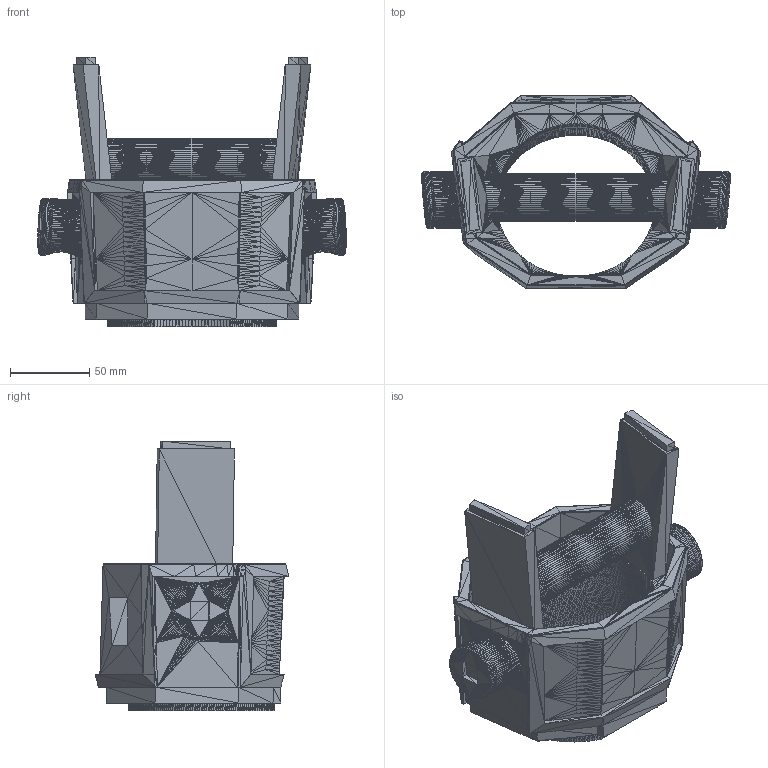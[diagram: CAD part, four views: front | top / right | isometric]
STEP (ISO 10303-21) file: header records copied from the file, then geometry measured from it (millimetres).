
FILE_DESCRIPTION((''),'2;1');
FILE_NAME('Center Middle', '2025-03-27T07:25:43', (''), (''), 'ImageToStl.com STEP Converter','', '');
FILE_SCHEMA(('AUTOMOTIVE_DESIGN_CC2'));
Length unit declared in the file: metre
Products named in the file (1): product0
Bounding box: 194.98 x 122.41 x 170.57 mm (x, y, z)
Surface area: 126932.5 mm2 (no closed solid volume)
Topology: 0 solids, 22656 shells, 22656 faces, 67968 edges, 11326 vertices
Faces by surface type: plane 22656
Entity records: 543775 total; most frequent: DIRECTION 113282, ORIENTED_EDGE 67968, EDGE_CURVE 67968, LINE 67968, VECTOR 67968, AXIS2_PLACEMENT_3D 22657, STYLED_ITEM 22657, FACE_SURFACE 22656
